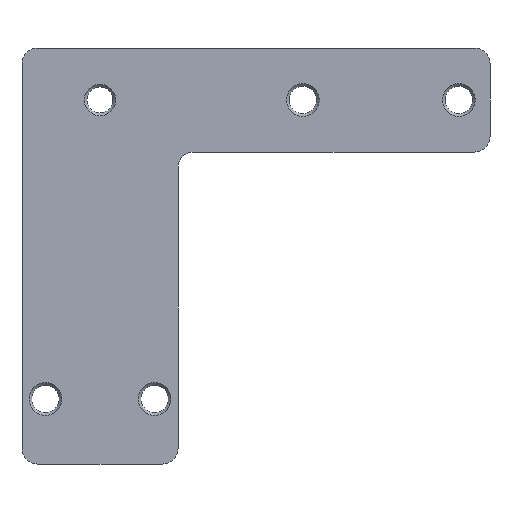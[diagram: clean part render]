
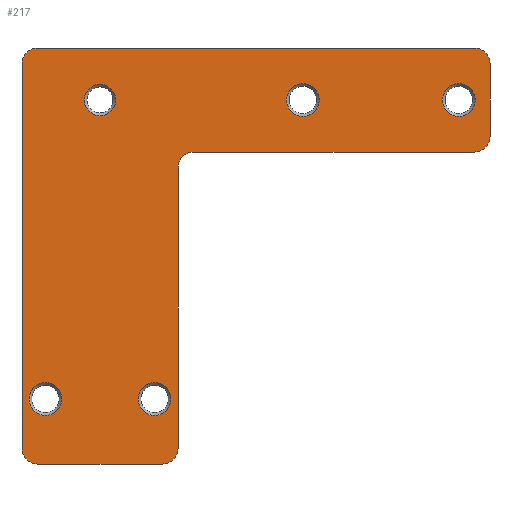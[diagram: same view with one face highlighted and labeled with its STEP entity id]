
A CAD part, front view. The second image highlights one B-rep face of the part: STEP entity #217.
In plain terms, the highlighted planar face has unit normal (0, -1, 0).
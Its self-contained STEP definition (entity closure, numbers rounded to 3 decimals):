
#141=FACE_BOUND('',#270,.T.);
#142=FACE_BOUND('',#271,.T.);
#143=FACE_BOUND('',#272,.T.);
#144=FACE_BOUND('',#273,.T.);
#145=FACE_BOUND('',#274,.T.);
#146=FACE_BOUND('',#275,.T.);
#183=CIRCLE('',#589,3.);
#184=CIRCLE('',#590,3.15);
#185=CIRCLE('',#591,3.15);
#186=CIRCLE('',#592,3.15);
#187=CIRCLE('',#593,3.15);
#188=CIRCLE('',#594,3.);
#189=CIRCLE('',#595,3.);
#190=CIRCLE('',#596,3.);
#191=CIRCLE('',#597,3.);
#192=CIRCLE('',#598,3.);
#193=CIRCLE('',#599,3.);
#217=ADVANCED_FACE('',(#141,#142,#143,#144,#145,#146),#242,.T.);
#242=PLANE('',#600);
#270=EDGE_LOOP('',(#342));
#271=EDGE_LOOP('',(#343));
#272=EDGE_LOOP('',(#344));
#273=EDGE_LOOP('',(#345));
#274=EDGE_LOOP('',(#346));
#275=EDGE_LOOP('',(#347,#348,#349,#350,#351,#352,#353,#354,#355,#356,#357,
#358));
#342=ORIENTED_EDGE('',*,*,#498,.T.);
#343=ORIENTED_EDGE('',*,*,#499,.T.);
#344=ORIENTED_EDGE('',*,*,#500,.T.);
#345=ORIENTED_EDGE('',*,*,#501,.T.);
#346=ORIENTED_EDGE('',*,*,#502,.T.);
#347=ORIENTED_EDGE('',*,*,#468,.F.);
#348=ORIENTED_EDGE('',*,*,#503,.T.);
#349=ORIENTED_EDGE('',*,*,#492,.F.);
#350=ORIENTED_EDGE('',*,*,#504,.T.);
#351=ORIENTED_EDGE('',*,*,#484,.F.);
#352=ORIENTED_EDGE('',*,*,#505,.T.);
#353=ORIENTED_EDGE('',*,*,#478,.F.);
#354=ORIENTED_EDGE('',*,*,#506,.T.);
#355=ORIENTED_EDGE('',*,*,#474,.F.);
#356=ORIENTED_EDGE('',*,*,#507,.T.);
#357=ORIENTED_EDGE('',*,*,#470,.F.);
#358=ORIENTED_EDGE('',*,*,#508,.T.);
#424=VERTEX_POINT('',#785);
#425=VERTEX_POINT('',#787);
#426=VERTEX_POINT('',#791);
#427=VERTEX_POINT('',#792);
#430=VERTEX_POINT('',#800);
#431=VERTEX_POINT('',#801);
#434=VERTEX_POINT('',#809);
#435=VERTEX_POINT('',#810);
#440=VERTEX_POINT('',#821);
#441=VERTEX_POINT('',#823);
#448=VERTEX_POINT('',#842);
#449=VERTEX_POINT('',#843);
#454=VERTEX_POINT('',#856);
#455=VERTEX_POINT('',#858);
#456=VERTEX_POINT('',#860);
#457=VERTEX_POINT('',#862);
#458=VERTEX_POINT('',#864);
#468=EDGE_CURVE('',#424,#425,#524,.T.);
#470=EDGE_CURVE('',#426,#427,#526,.T.);
#474=EDGE_CURVE('',#430,#431,#530,.T.);
#478=EDGE_CURVE('',#434,#435,#534,.T.);
#484=EDGE_CURVE('',#440,#441,#540,.T.);
#492=EDGE_CURVE('',#448,#449,#542,.T.);
#498=EDGE_CURVE('',#454,#454,#183,.T.);
#499=EDGE_CURVE('',#455,#455,#184,.T.);
#500=EDGE_CURVE('',#456,#456,#185,.T.);
#501=EDGE_CURVE('',#457,#457,#186,.T.);
#502=EDGE_CURVE('',#458,#458,#187,.T.);
#503=EDGE_CURVE('',#424,#449,#188,.T.);
#504=EDGE_CURVE('',#448,#441,#189,.T.);
#505=EDGE_CURVE('',#440,#435,#190,.T.);
#506=EDGE_CURVE('',#434,#431,#191,.T.);
#507=EDGE_CURVE('',#430,#427,#192,.T.);
#508=EDGE_CURVE('',#426,#425,#193,.T.);
#524=LINE('',#786,#548);
#526=LINE('',#790,#550);
#530=LINE('',#799,#554);
#534=LINE('',#808,#558);
#540=LINE('',#822,#564);
#542=LINE('',#841,#566);
#548=VECTOR('',#636,1.);
#550=VECTOR('',#640,1.);
#554=VECTOR('',#646,1.);
#558=VECTOR('',#652,1.);
#564=VECTOR('',#660,1.);
#566=VECTOR('',#682,1.);
#589=AXIS2_PLACEMENT_3D('',#855,#694,#695);
#590=AXIS2_PLACEMENT_3D('',#857,#696,#697);
#591=AXIS2_PLACEMENT_3D('',#859,#698,#699);
#592=AXIS2_PLACEMENT_3D('',#861,#700,#701);
#593=AXIS2_PLACEMENT_3D('',#863,#702,#703);
#594=AXIS2_PLACEMENT_3D('',#865,#704,#705);
#595=AXIS2_PLACEMENT_3D('',#866,#706,#707);
#596=AXIS2_PLACEMENT_3D('',#867,#708,#709);
#597=AXIS2_PLACEMENT_3D('',#868,#710,#711);
#598=AXIS2_PLACEMENT_3D('',#869,#712,#713);
#599=AXIS2_PLACEMENT_3D('',#870,#714,#715);
#600=AXIS2_PLACEMENT_3D('',#871,#716,#717);
#636=DIRECTION('',(0.,0.,1.));
#640=DIRECTION('',(1.,0.,0.));
#646=DIRECTION('',(0.,0.,-1.));
#652=DIRECTION('',(-1.,0.,0.));
#660=DIRECTION('',(0.,0.,-1.));
#682=DIRECTION('',(-1.,0.,0.));
#694=DIRECTION('',(0.,1.,0.));
#695=DIRECTION('',(0.,0.,-1.));
#696=DIRECTION('',(0.,1.,0.));
#697=DIRECTION('',(0.,0.,-1.));
#698=DIRECTION('',(0.,1.,0.));
#699=DIRECTION('',(0.,0.,-1.));
#700=DIRECTION('',(0.,1.,0.));
#701=DIRECTION('',(0.,0.,-1.));
#702=DIRECTION('',(0.,1.,0.));
#703=DIRECTION('',(0.,0.,-1.));
#704=DIRECTION('',(0.,-1.,0.));
#705=DIRECTION('',(0.,0.,-1.));
#706=DIRECTION('',(0.,-1.,0.));
#707=DIRECTION('',(0.,0.,-1.));
#708=DIRECTION('',(0.,1.,0.));
#709=DIRECTION('',(0.,0.,-1.));
#710=DIRECTION('',(0.,-1.,0.));
#711=DIRECTION('',(0.,0.,-1.));
#712=DIRECTION('',(0.,-1.,0.));
#713=DIRECTION('',(0.,0.,-1.));
#714=DIRECTION('',(0.,-1.,0.));
#715=DIRECTION('',(0.,0.,-1.));
#716=DIRECTION('',(0.,-1.,0.));
#717=DIRECTION('',(0.,0.,-1.));
#785=CARTESIAN_POINT('',(-15.,-5.,3.));
#786=CARTESIAN_POINT('',(-15.,-5.,0.));
#787=CARTESIAN_POINT('',(-15.,-5.,77.));
#790=CARTESIAN_POINT('',(-15.,-5.,80.));
#791=CARTESIAN_POINT('',(-12.,-5.,80.));
#792=CARTESIAN_POINT('',(72.,-5.,80.));
#799=CARTESIAN_POINT('',(75.,-5.,80.));
#800=CARTESIAN_POINT('',(75.,-5.,77.));
#801=CARTESIAN_POINT('',(75.,-5.,63.));
#808=CARTESIAN_POINT('',(75.,-5.,60.));
#809=CARTESIAN_POINT('',(72.,-5.,60.));
#810=CARTESIAN_POINT('',(18.,-5.,60.));
#821=CARTESIAN_POINT('',(15.,-5.,57.));
#822=CARTESIAN_POINT('',(15.,-5.,60.));
#823=CARTESIAN_POINT('',(15.,-5.,3.));
#841=CARTESIAN_POINT('',(15.,-5.,0.));
#842=CARTESIAN_POINT('',(12.,-5.,0.));
#843=CARTESIAN_POINT('',(-12.,-5.,0.));
#855=CARTESIAN_POINT('',(0.,-5.,70.));
#856=CARTESIAN_POINT('',(0.,-5.,67.));
#857=CARTESIAN_POINT('',(-10.5,-5.,12.5));
#858=CARTESIAN_POINT('',(-10.5,-5.,9.35));
#859=CARTESIAN_POINT('',(10.5,-5.,12.5));
#860=CARTESIAN_POINT('',(10.5,-5.,9.35));
#861=CARTESIAN_POINT('',(69.,-5.,70.));
#862=CARTESIAN_POINT('',(69.,-5.,66.85));
#863=CARTESIAN_POINT('',(39.,-5.,70.));
#864=CARTESIAN_POINT('',(39.,-5.,66.85));
#865=CARTESIAN_POINT('',(-12.,-5.,3.));
#866=CARTESIAN_POINT('',(12.,-5.,3.));
#867=CARTESIAN_POINT('',(18.,-5.,57.));
#868=CARTESIAN_POINT('',(72.,-5.,63.));
#869=CARTESIAN_POINT('',(72.,-5.,77.));
#870=CARTESIAN_POINT('',(-12.,-5.,77.));
#871=CARTESIAN_POINT('',(69.,-5.,70.));
